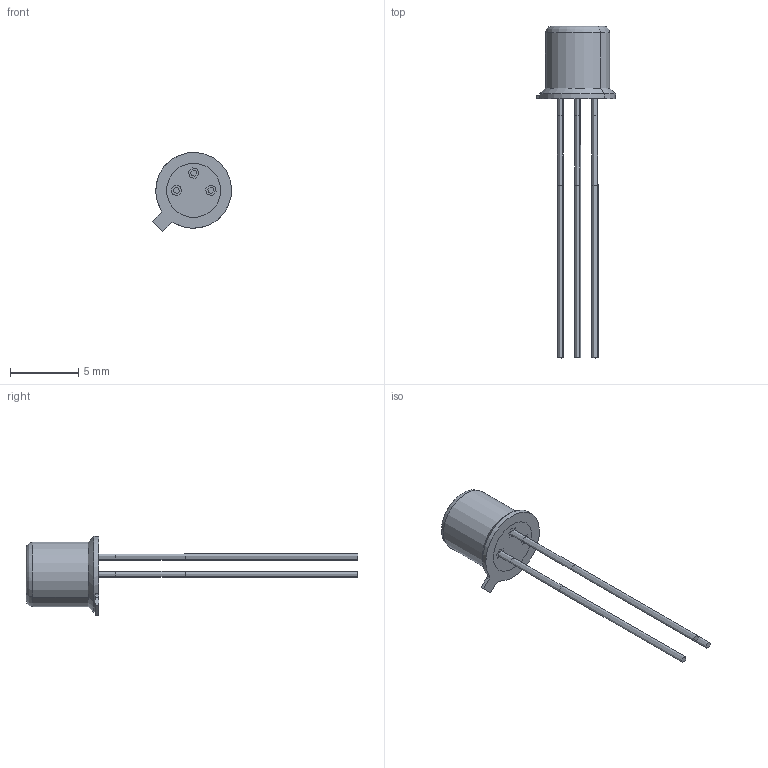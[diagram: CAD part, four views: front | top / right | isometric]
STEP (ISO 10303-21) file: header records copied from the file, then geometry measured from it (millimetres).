
FILE_DESCRIPTION (( 'STEP AP214' ), '1' );
FILE_NAME ('2N2222A.STEP', '2025-11-30T16:39:05', ( 'LENOVO' ), ( '' ), 'SwSTEP 2.0', 'SolidWorks 2021', '' );
FILE_SCHEMA (( 'AUTOMOTIVE_DESIGN' ));
Length unit declared in the file: millimetre
Products named in the file (2): 2N2222A; 2N2222A_2N2222A
Assembly tree (1 placements, depth 2):
  2N2222A
    2N2222A_2N2222A
Bounding box: 5.8 x 24.38 x 5.8 mm (x, y, z)
Volume: 106.8 mm3; surface area: 243.8 mm2
Topology: 8 solids, 8 shells, 68 faces, 126 edges, 78 vertices
Faces by surface type: cylinder 34, plane 24, torus 8, cone 2
Entity records: 1835 total; most frequent: DIRECTION 350, CARTESIAN_POINT 276, ORIENTED_EDGE 252, AXIS2_PLACEMENT_3D 152, EDGE_CURVE 126, CIRCLE 80, VERTEX_POINT 78, EDGE_LOOP 72
